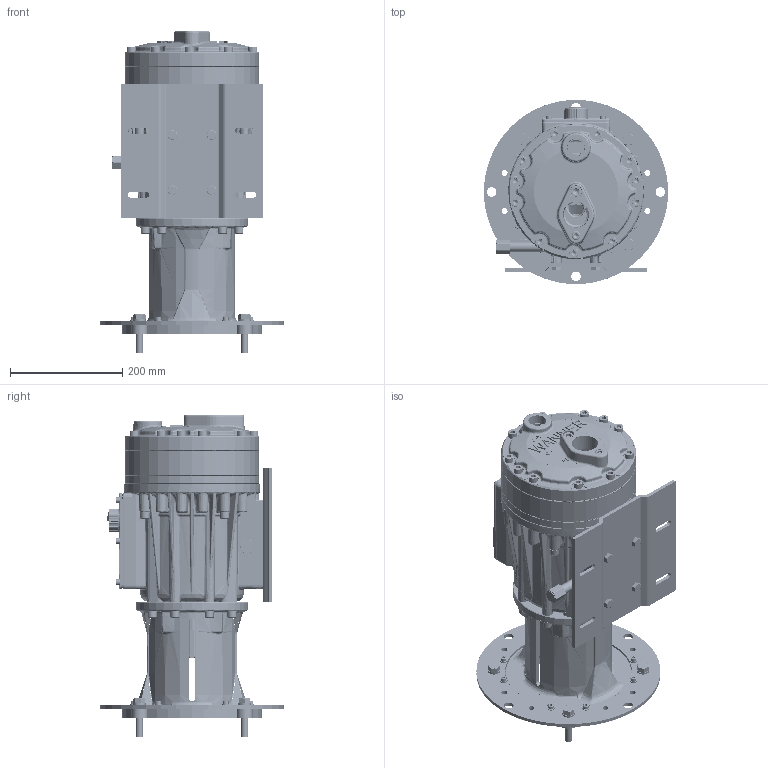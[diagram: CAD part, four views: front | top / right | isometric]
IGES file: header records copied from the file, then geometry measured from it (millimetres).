
Start section: SolidWorks IGES file using analytic representation for surfaces
Global section: file name: Q:\ENG\!!Gary\Outline-Dwgs\Latest-Pump-etc-OD\G25-M-1201-OD.IGS; native system: SolidWorks 2007; preprocessor: SolidWorks 2007; author: garyi; date: 081104.133008; units: inch
Bounding box: 327.66 x 327.66 x 573.56 mm (x, y, z)
Surface area: 1929621.5 mm2 (no closed solid volume)
Topology: 0 solids, 0 shells, 11749 faces, 141217 edges, 141142 vertices
Faces by surface type: revolution 6920, bspline 4829
